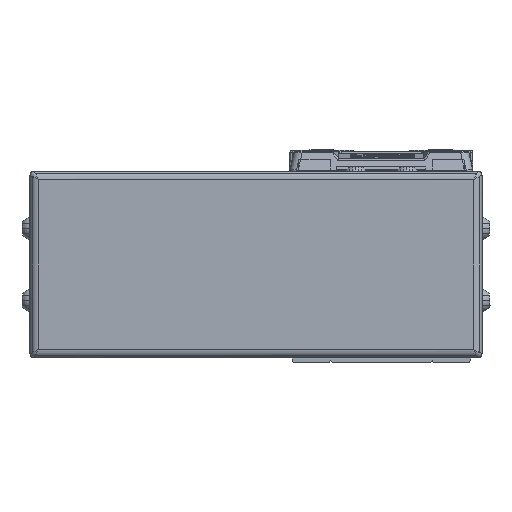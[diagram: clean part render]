
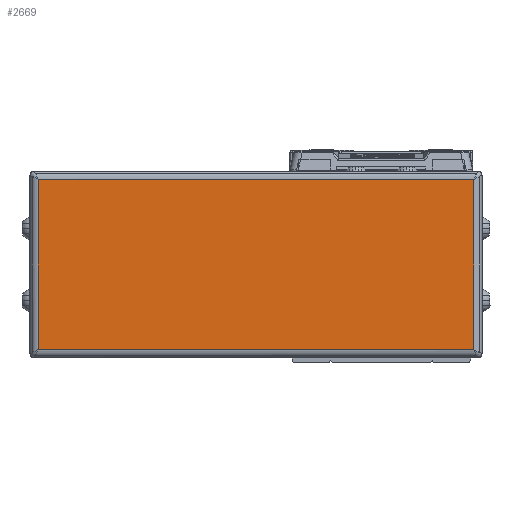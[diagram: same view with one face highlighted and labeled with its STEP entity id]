
A CAD part, left-side view. The second image highlights one B-rep face of the part: STEP entity #2669.
In plain terms, the highlighted planar face has unit normal (-1, 0, 0).
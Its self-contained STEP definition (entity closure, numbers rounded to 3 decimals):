
#2669=ADVANCED_FACE('',(#6601),#6602,.F.);
#6601=FACE_OUTER_BOUND('',#12762,.T.);
#6602=PLANE('',#12763);
#12762=EDGE_LOOP('',(#22494,#22495,#22496,#22497));
#12763=AXIS2_PLACEMENT_3D('',#22498,#22499,#22500);
#22494=ORIENTED_EDGE('',*,*,#35767,.T.);
#22495=ORIENTED_EDGE('',*,*,#36836,.T.);
#22496=ORIENTED_EDGE('',*,*,#36837,.T.);
#22497=ORIENTED_EDGE('',*,*,#36838,.T.);
#22498=CARTESIAN_POINT('',(-48.,29.5,-4.));
#22499=DIRECTION('',(1.0,0.,0.));
#22500=DIRECTION('',(0.,0.,1.0));
#35767=EDGE_CURVE('',#42496,#42078,#42497,.T.);
#36836=EDGE_CURVE('',#42078,#44300,#44301,.T.);
#36837=EDGE_CURVE('',#44300,#44302,#44303,.T.);
#36838=EDGE_CURVE('',#44302,#42496,#44304,.T.);
#42078=VERTEX_POINT('',#51546);
#42496=VERTEX_POINT('',#52266);
#42497=LINE('',#52267,#52268);
#44300=VERTEX_POINT('',#54859);
#44301=LINE('',#54860,#54861);
#44302=VERTEX_POINT('',#54862);
#44303=LINE('',#54863,#54864);
#44304=LINE('',#54865,#54866);
#51546=CARTESIAN_POINT('',(-48.,80.7,16.));
#52266=CARTESIAN_POINT('',(-48.,-21.7,16.));
#52267=CARTESIAN_POINT('',(-48.,29.5,16.));
#52268=VECTOR('',#64235,10.0);
#54859=CARTESIAN_POINT('',(-48.,80.7,-24.));
#54860=CARTESIAN_POINT('',(-48.,80.7,-4.));
#54861=VECTOR('',#65671,10.0);
#54862=CARTESIAN_POINT('',(-48.,-21.7,-24.));
#54863=CARTESIAN_POINT('',(-48.,29.5,-24.));
#54864=VECTOR('',#65672,10.0);
#54865=CARTESIAN_POINT('',(-48.,-21.7,-4.));
#54866=VECTOR('',#65673,10.0);
#64235=DIRECTION('',(0.,1.0,0.));
#65671=DIRECTION('',(0.,0.,-1.0));
#65672=DIRECTION('',(0.,-1.0,0.));
#65673=DIRECTION('',(0.,0.,1.0));
